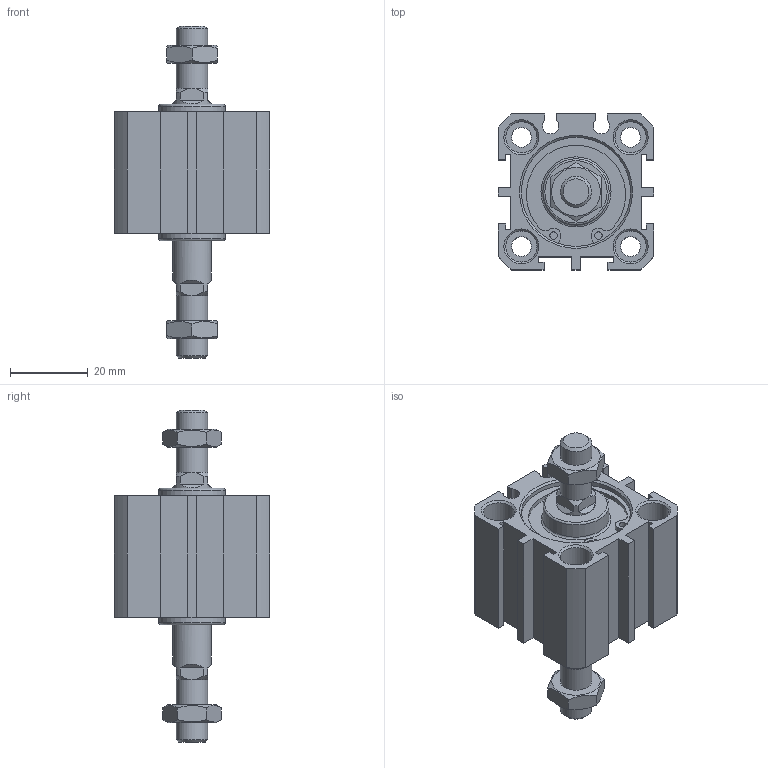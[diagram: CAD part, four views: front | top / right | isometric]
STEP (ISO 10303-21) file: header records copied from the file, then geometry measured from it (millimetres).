
FILE_DESCRIPTION((''),'2;1');
FILE_NAME('I:\3D電子目錄\氣缸\JDD\JDD-B\JDD25-B\JDD25x10-B.stp','2007-02-27T13:55:58',('662F206'),(''),'Autodesk Inventor 10','Autodesk Inventor 10','');
FILE_SCHEMA(('AUTOMOTIVE_DESIGN { 1 0 10303 214 1 1 1 1 }'));
Length unit declared in the file: millimetre
Products named in the file (3): JDD25-B; R 形環 28
Assembly tree (3 placements, depth 2):
  JDD25-B
    JDD25-B
    R 形環 28  x2
Bounding box: 40 x 40 x 85.2 mm (x, y, z)
Volume: 41682.8 mm3; surface area: 16657.6 mm2
Topology: 3 solids, 3 shells, 192 faces, 454 edges, 294 vertices
Faces by surface type: plane 108, cylinder 50, cone 26, bspline 6, torus 2
Full cylindrical faces by diameter (mm): 1.5 x2, 1.9 x4, 5.1 x4, 8 x12, 10 x2, 17 x2, 28 x4, 29.4 x2
Entity records: 4989 total; most frequent: CARTESIAN_POINT 1022, DIRECTION 812, ORIENTED_EDGE 724, EDGE_CURVE 362, AXIS2_PLACEMENT_3D 310, EDGE_LOOP 272, VERTEX_POINT 266, VECTOR 192
